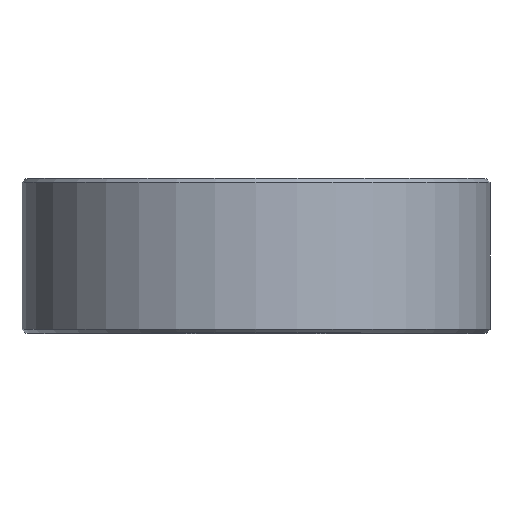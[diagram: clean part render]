
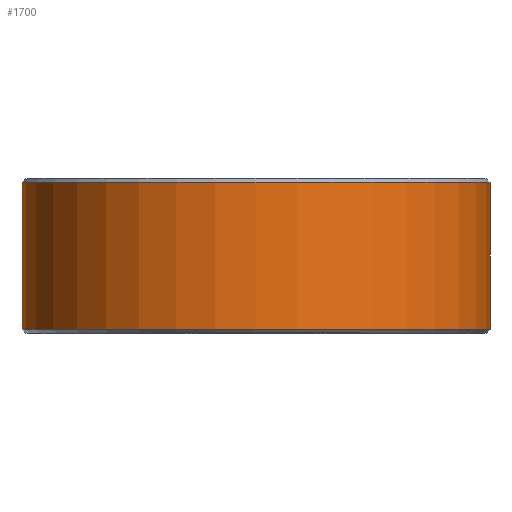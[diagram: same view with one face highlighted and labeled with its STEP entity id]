
A CAD part, top view. The second image highlights one B-rep face of the part: STEP entity #1700.
In plain terms, the highlighted cylindrical face has radius 12.1 mm (diameter 24.2 mm), a partial arc.
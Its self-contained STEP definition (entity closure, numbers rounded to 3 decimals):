
#59=DIRECTION('',(0.,-1.,0.));
#60=VECTOR('',#59,7.6);
#61=CARTESIAN_POINT('',(-12.1,7.8,0.));
#62=LINE('',#61,#60);
#385=CARTESIAN_POINT('',(0.,0.2,0.));
#386=DIRECTION('',(0.,-1.,0.));
#387=DIRECTION('',(1.,0.,0.));
#388=AXIS2_PLACEMENT_3D('',#385,#386,#387);
#390=CARTESIAN_POINT('',(0.,7.8,0.));
#391=DIRECTION('',(0.,1.,0.));
#392=DIRECTION('',(-1.,0.,0.));
#393=AXIS2_PLACEMENT_3D('',#390,#391,#392);
#395=DIRECTION('',(0.,-1.,0.));
#396=VECTOR('',#395,7.6);
#397=CARTESIAN_POINT('',(12.1,7.8,0.));
#398=LINE('',#397,#396);
#1295=CARTESIAN_POINT('',(12.1,7.8,0.));
#1296=VERTEX_POINT('',#1295);
#1297=CARTESIAN_POINT('',(-12.1,7.8,0.));
#1298=VERTEX_POINT('',#1297);
#1299=CARTESIAN_POINT('',(12.1,0.2,0.));
#1300=VERTEX_POINT('',#1299);
#1301=CARTESIAN_POINT('',(-12.1,0.2,0.));
#1302=VERTEX_POINT('',#1301);
#1688=CARTESIAN_POINT('',(0.,0.,0.));
#1689=DIRECTION('',(0.,1.,0.));
#1690=DIRECTION('',(1.,0.,0.));
#1691=AXIS2_PLACEMENT_3D('',#1688,#1689,#1690);
#1692=CYLINDRICAL_SURFACE('',#1691,12.1);
#1693=ORIENTED_EDGE('',*,*,#1502,.T.);
#1694=ORIENTED_EDGE('',*,*,#1533,.F.);
#1696=ORIENTED_EDGE('',*,*,#1695,.T.);
#1697=ORIENTED_EDGE('',*,*,#1529,.T.);
#1698=EDGE_LOOP('',(#1693,#1694,#1696,#1697));
#1699=FACE_OUTER_BOUND('',#1698,.F.);
#1700=ADVANCED_FACE('',(#1699),#1692,.T.);
#389=CIRCLE('',#388,12.1);
#394=CIRCLE('',#393,12.1);
#1502=EDGE_CURVE('',#1300,#1302,#389,.T.);
#1529=EDGE_CURVE('',#1296,#1300,#398,.T.);
#1533=EDGE_CURVE('',#1298,#1302,#62,.T.);
#1695=EDGE_CURVE('',#1298,#1296,#394,.T.);
